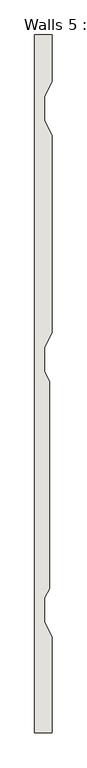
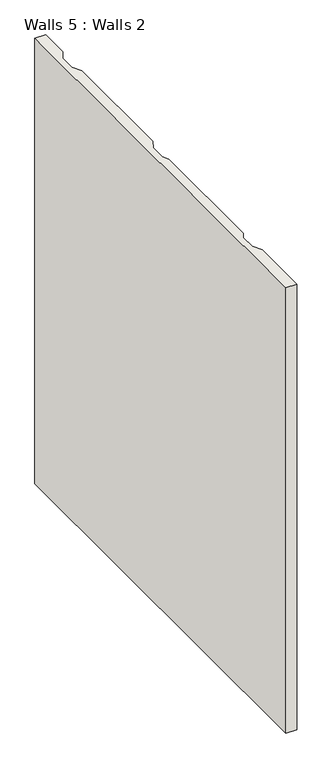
"""IFC4 building model written with IfcOpenShell, lengths in millimetres: wall geometry, Walls 5 : Walls 2."""

from ifc_helpers import new_model, si_unit, frame, origin, place, context, project, spatial, polyline, outline, extrude, source, transform, mapped, element, save


def walls_5_walls_2_f4ec63fe(model_context):
    return source(origin(), model_context, "Body", "SweptSolid", [
        extrude(outline(polyline([(20135.7183539, 5053.8058616), (20135.7183539, 8031.3293418), (20209.4814201, 8031.3293418), (20209.4814201, 7830.9196419), (20177.2183529, 7769.9782929), (20177.2183529, 7664.9782835), (20209.4814201, 7604.0369435), (20209.4814201, 6760.9196419), (20177.2183529, 6699.9782929), (20177.2183529, 6594.9782835), (20198.4024347, 6554.9639128), (20198.4024347, 5669.9926727), (20177.2183529, 5629.978302), (20177.2183529, 5524.9782925), (20209.4814201, 5464.0369435), (20209.4814201, 5053.8058616), (20135.7183539, 5053.8058616)])), frame((0.0, 0.0, 116.5252864), z_axis=(0.0, 0.0, 1.0), x_axis=(1.0, 0.0, 0.0)), (0.0, 0.0, 1.0), 3224.1299296),
    ])


if __name__ == "__main__":
    model = new_model("IFC4")
    model_context = context("Model", 3, world=origin())
    ifc_project = project(units=[si_unit("LENGTHUNIT", "METRE", prefix="MILLI")], contexts=[model_context])
    site = spatial("IfcSite", under=ifc_project)
    building = spatial("IfcBuilding", under=site)
    placement = place(None, origin())
    walls_5_walls_2_shape = walls_5_walls_2_f4ec63fe(model_context)
    element("IfcWall", 1, ObjectType="Walls 5 : Walls 2", at=placement, inside=building, context=model_context, shape_type="MappedRepresentation", body=[
        mapped(walls_5_walls_2_shape, transform((0.0, 0.0, 0.0), x_axis=(1.0, 0.0, 0.0), y_axis=(0.0, 1.0, 0.0), z_axis=(0.0, 0.0, 1.0))),
    ])
    save(model, "model.ifc")
